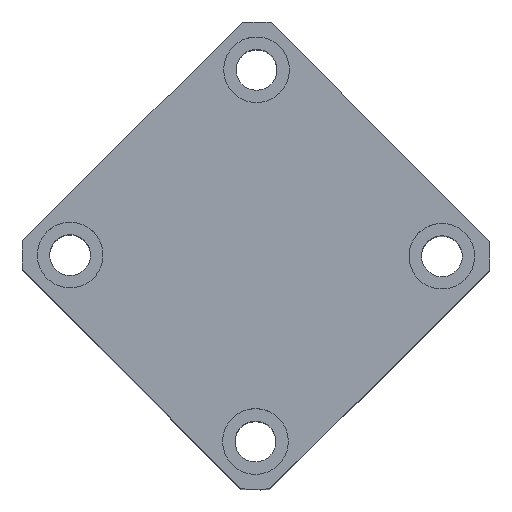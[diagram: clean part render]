
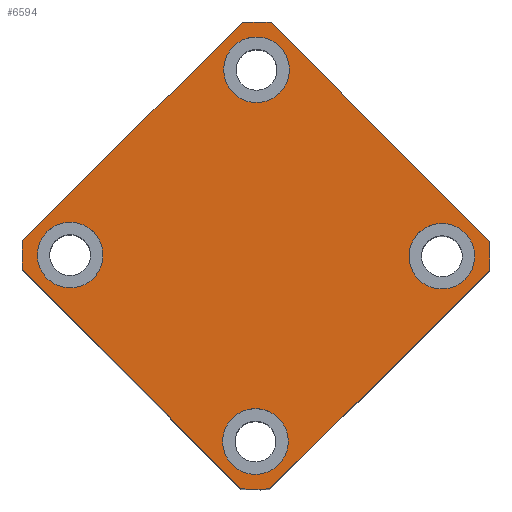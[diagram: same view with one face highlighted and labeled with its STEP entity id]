
A CAD part, top view. The second image highlights one B-rep face of the part: STEP entity #6594.
In plain terms, the highlighted planar face has unit normal (0, 0, 1) as drawn and (1, 0, 0) by its records, which use the part's own axes.
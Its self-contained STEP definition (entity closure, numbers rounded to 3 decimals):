
#87 = VERTEX_POINT ( 'NONE', #2598 ) ;
#207 = DIRECTION ( 'NONE',  ( 0., 0., -1. ) ) ;
#210 = VERTEX_POINT ( 'NONE', #7335 ) ;
#268 = CARTESIAN_POINT ( 'NONE',  ( 60., -24., -21.166 ) ) ;
#300 = EDGE_CURVE ( 'NONE', #5265, #6244, #10051, .T. ) ;
#410 = VECTOR ( 'NONE', #9464, 1000. ) ;
#443 = VERTEX_POINT ( 'NONE', #8346 ) ;
#479 = ORIENTED_EDGE ( 'NONE', *, *, #6866, .T. ) ;
#518 = CIRCLE ( 'NONE', #3486, 32. ) ;
#521 = DIRECTION ( 'NONE',  ( 0., 0., -1. ) ) ;
#602 = DIRECTION ( 'NONE',  ( 0., 0., -1. ) ) ;
#623 = CARTESIAN_POINT ( 'NONE',  ( 60., -18., 22.5 ) ) ;
#691 = CARTESIAN_POINT ( 'NONE',  ( 60., -18., -18. ) ) ;
#707 = FACE_BOUND ( 'NONE', #908, .T. ) ;
#869 = CARTESIAN_POINT ( 'NONE',  ( 60., 0., 0. ) ) ;
#908 = EDGE_LOOP ( 'NONE', ( #3858, #3542 ) ) ;
#1067 = CARTESIAN_POINT ( 'NONE',  ( 60., 24., 24. ) ) ;
#1085 = CIRCLE ( 'NONE', #4946, 32. ) ;
#1253 = DIRECTION ( 'NONE',  ( 0., -1., 0. ) ) ;
#1274 = AXIS2_PLACEMENT_3D ( 'NONE', #8825, #8028, #2989 ) ;
#1387 = VERTEX_POINT ( 'NONE', #268 ) ;
#1528 = DIRECTION ( 'NONE',  ( 0., 0., -1. ) ) ;
#1546 = AXIS2_PLACEMENT_3D ( 'NONE', #4585, #5217, #5518 ) ;
#1578 = VERTEX_POINT ( 'NONE', #2463 ) ;
#1590 = CARTESIAN_POINT ( 'NONE',  ( 60., -18., 18. ) ) ;
#1694 = DIRECTION ( 'NONE',  ( 0., 0., -1. ) ) ;
#2165 = PLANE ( 'NONE',  #1274 ) ;
#2183 = ORIENTED_EDGE ( 'NONE', *, *, #7847, .T. ) ;
#2250 = CARTESIAN_POINT ( 'NONE',  ( 60., -18., 18. ) ) ;
#2306 = EDGE_CURVE ( 'NONE', #6967, #443, #6830, .T. ) ;
#2352 = VECTOR ( 'NONE', #10081, 1000. ) ;
#2432 = DIRECTION ( 'NONE',  ( 0., 0., -1. ) ) ;
#2463 = CARTESIAN_POINT ( 'NONE',  ( 60., -24., 21.166 ) ) ;
#2529 = EDGE_CURVE ( 'NONE', #9693, #8681, #5763, .T. ) ;
#2598 = CARTESIAN_POINT ( 'NONE',  ( 60., 21.166, -24. ) ) ;
#2697 = VERTEX_POINT ( 'NONE', #623 ) ;
#2767 = CARTESIAN_POINT ( 'NONE',  ( 60., 21.166, 24. ) ) ;
#2810 = CIRCLE ( 'NONE', #7172, 4.5 ) ;
#2989 = DIRECTION ( 'NONE',  ( 0., 0., -1. ) ) ;
#3060 = CARTESIAN_POINT ( 'NONE',  ( 60., 24., 24. ) ) ;
#3083 = DIRECTION ( 'NONE',  ( 0., 0., -1. ) ) ;
#3177 = FACE_BOUND ( 'NONE', #5998, .T. ) ;
#3267 = CARTESIAN_POINT ( 'NONE',  ( 60., 18., -22.5 ) ) ;
#3356 = DIRECTION ( 'NONE',  ( 1., 0., 0. ) ) ;
#3486 = AXIS2_PLACEMENT_3D ( 'NONE', #8760, #3736, #9598 ) ;
#3536 = EDGE_CURVE ( 'NONE', #9382, #2697, #6707, .T. ) ;
#3542 = ORIENTED_EDGE ( 'NONE', *, *, #300, .F. ) ;
#3551 = AXIS2_PLACEMENT_3D ( 'NONE', #10225, #5207, #207 ) ;
#3572 = EDGE_CURVE ( 'NONE', #6368, #3610, #6171, .T. ) ;
#3610 = VERTEX_POINT ( 'NONE', #3267 ) ;
#3701 = ORIENTED_EDGE ( 'NONE', *, *, #7421, .F. ) ;
#3736 = DIRECTION ( 'NONE',  ( 1., 0., 0. ) ) ;
#3831 = CIRCLE ( 'NONE', #10754, 4.5 ) ;
#3858 = ORIENTED_EDGE ( 'NONE', *, *, #5366, .F. ) ;
#3886 = EDGE_CURVE ( 'NONE', #3610, #6368, #6565, .T. ) ;
#3910 = ORIENTED_EDGE ( 'NONE', *, *, #9249, .T. ) ;
#4338 = DIRECTION ( 'NONE',  ( 1., 0., 0. ) ) ;
#4402 = CARTESIAN_POINT ( 'NONE',  ( 60., 18., -18. ) ) ;
#4572 = LINE ( 'NONE', #10294, #410 ) ;
#4585 = CARTESIAN_POINT ( 'NONE',  ( 60., 18., 18. ) ) ;
#4607 = AXIS2_PLACEMENT_3D ( 'NONE', #2250, #8104, #3083 ) ;
#4946 = AXIS2_PLACEMENT_3D ( 'NONE', #9366, #4338, #10194 ) ;
#5023 = EDGE_LOOP ( 'NONE', ( #10505, #3701 ) ) ;
#5207 = DIRECTION ( 'NONE',  ( 1., 0., 0. ) ) ;
#5217 = DIRECTION ( 'NONE',  ( 1., 0., 0. ) ) ;
#5255 = DIRECTION ( 'NONE',  ( 0., 0., -1. ) ) ;
#5265 = VERTEX_POINT ( 'NONE', #6202 ) ;
#5366 = EDGE_CURVE ( 'NONE', #6244, #5265, #2810, .T. ) ;
#5518 = DIRECTION ( 'NONE',  ( 0., 0., -1. ) ) ;
#5534 = DIRECTION ( 'NONE',  ( 1., 0., 0. ) ) ;
#5611 = DIRECTION ( 'NONE',  ( 1., 0., 0. ) ) ;
#5763 = LINE ( 'NONE', #1067, #10705 ) ;
#5769 = EDGE_CURVE ( 'NONE', #1578, #1387, #10524, .T. ) ;
#5807 = ORIENTED_EDGE ( 'NONE', *, *, #3886, .F. ) ;
#5833 = EDGE_LOOP ( 'NONE', ( #2183, #479, #8758, #7965, #6728, #3910, #6239, #10251 ) ) ;
#5998 = EDGE_LOOP ( 'NONE', ( #5807, #8920 ) ) ;
#6116 = AXIS2_PLACEMENT_3D ( 'NONE', #4402, #10264, #5255 ) ;
#6150 = CARTESIAN_POINT ( 'NONE',  ( 60., -21.166, 24. ) ) ;
#6171 = CIRCLE ( 'NONE', #6327, 4.5 ) ;
#6202 = CARTESIAN_POINT ( 'NONE',  ( 60., 18., 22.5 ) ) ;
#6239 = ORIENTED_EDGE ( 'NONE', *, *, #5769, .T. ) ;
#6244 = VERTEX_POINT ( 'NONE', #7426 ) ;
#6327 = AXIS2_PLACEMENT_3D ( 'NONE', #10603, #5611, #602 ) ;
#6356 = CIRCLE ( 'NONE', #7453, 32. ) ;
#6368 = VERTEX_POINT ( 'NONE', #7715 ) ;
#6430 = ORIENTED_EDGE ( 'NONE', *, *, #7757, .F. ) ;
#6559 = DIRECTION ( 'NONE',  ( 1., 0., 0. ) ) ;
#6565 = CIRCLE ( 'NONE', #6116, 4.5 ) ;
#6594 = ADVANCED_FACE ( 'NONE', ( #9862, #7403, #3177, #707, #9353 ), #2165, .T. ) ;
#6707 = CIRCLE ( 'NONE', #4607, 4.5 ) ;
#6728 = ORIENTED_EDGE ( 'NONE', *, *, #2529, .T. ) ;
#6736 = DIRECTION ( 'NONE',  ( 1., 0., 0. ) ) ;
#6830 = LINE ( 'NONE', #3060, #2352 ) ;
#6866 = EDGE_CURVE ( 'NONE', #87, #6967, #6356, .T. ) ;
#6951 = CARTESIAN_POINT ( 'NONE',  ( 60., -18., -22.5 ) ) ;
#6967 = VERTEX_POINT ( 'NONE', #7662 ) ;
#7073 = AXIS2_PLACEMENT_3D ( 'NONE', #869, #6736, #1694 ) ;
#7172 = AXIS2_PLACEMENT_3D ( 'NONE', #10531, #5534, #521 ) ;
#7335 = CARTESIAN_POINT ( 'NONE',  ( 60., -18., -13.5 ) ) ;
#7403 = FACE_BOUND ( 'NONE', #5023, .T. ) ;
#7421 = EDGE_CURVE ( 'NONE', #2697, #9382, #7652, .T. ) ;
#7426 = CARTESIAN_POINT ( 'NONE',  ( 60., 18., 13.5 ) ) ;
#7453 = AXIS2_PLACEMENT_3D ( 'NONE', #8383, #3356, #9218 ) ;
#7460 = DIRECTION ( 'NONE',  ( 1., 0., 0. ) ) ;
#7652 = CIRCLE ( 'NONE', #9919, 4.5 ) ;
#7662 = CARTESIAN_POINT ( 'NONE',  ( 60., 24., -21.166 ) ) ;
#7687 = CARTESIAN_POINT ( 'NONE',  ( 60., -21.166, -24. ) ) ;
#7715 = CARTESIAN_POINT ( 'NONE',  ( 60., 18., -13.5 ) ) ;
#7757 = EDGE_CURVE ( 'NONE', #10533, #210, #8559, .T. ) ;
#7847 = EDGE_CURVE ( 'NONE', #8951, #87, #4572, .T. ) ;
#7965 = ORIENTED_EDGE ( 'NONE', *, *, #8879, .T. ) ;
#8028 = DIRECTION ( 'NONE',  ( 1., 0., 0. ) ) ;
#8104 = DIRECTION ( 'NONE',  ( 1., 0., 0. ) ) ;
#8316 = VECTOR ( 'NONE', #9819, 1000. ) ;
#8346 = CARTESIAN_POINT ( 'NONE',  ( 60., 24., 21.166 ) ) ;
#8383 = CARTESIAN_POINT ( 'NONE',  ( 60., 0., 0. ) ) ;
#8559 = CIRCLE ( 'NONE', #3551, 4.5 ) ;
#8681 = VERTEX_POINT ( 'NONE', #6150 ) ;
#8722 = ORIENTED_EDGE ( 'NONE', *, *, #9428, .F. ) ;
#8758 = ORIENTED_EDGE ( 'NONE', *, *, #2306, .T. ) ;
#8760 = CARTESIAN_POINT ( 'NONE',  ( 60., 0., 0. ) ) ;
#8768 = CIRCLE ( 'NONE', #7073, 32. ) ;
#8825 = CARTESIAN_POINT ( 'NONE',  ( 60., 0., 0. ) ) ;
#8879 = EDGE_CURVE ( 'NONE', #443, #9693, #8768, .T. ) ;
#8920 = ORIENTED_EDGE ( 'NONE', *, *, #3572, .F. ) ;
#8951 = VERTEX_POINT ( 'NONE', #7687 ) ;
#8985 = CARTESIAN_POINT ( 'NONE',  ( 60., -24., 24. ) ) ;
#9218 = DIRECTION ( 'NONE',  ( 0., 0., -1. ) ) ;
#9249 = EDGE_CURVE ( 'NONE', #8681, #1578, #518, .T. ) ;
#9353 = FACE_OUTER_BOUND ( 'NONE', #5833, .T. ) ;
#9366 = CARTESIAN_POINT ( 'NONE',  ( 60., 0., 0. ) ) ;
#9382 = VERTEX_POINT ( 'NONE', #9728 ) ;
#9428 = EDGE_CURVE ( 'NONE', #210, #10533, #3831, .T. ) ;
#9464 = DIRECTION ( 'NONE',  ( 0., 1., 0. ) ) ;
#9597 = EDGE_CURVE ( 'NONE', #1387, #8951, #1085, .T. ) ;
#9598 = DIRECTION ( 'NONE',  ( 0., 0., -1. ) ) ;
#9693 = VERTEX_POINT ( 'NONE', #2767 ) ;
#9728 = CARTESIAN_POINT ( 'NONE',  ( 60., -18., 13.5 ) ) ;
#9819 = DIRECTION ( 'NONE',  ( 0., 0., -1. ) ) ;
#9862 = FACE_BOUND ( 'NONE', #10321, .T. ) ;
#9919 = AXIS2_PLACEMENT_3D ( 'NONE', #1590, #7460, #2432 ) ;
#10051 = CIRCLE ( 'NONE', #1546, 4.5 ) ;
#10081 = DIRECTION ( 'NONE',  ( 0., 0., 1. ) ) ;
#10194 = DIRECTION ( 'NONE',  ( 0., 0., -1. ) ) ;
#10225 = CARTESIAN_POINT ( 'NONE',  ( 60., -18., -18. ) ) ;
#10251 = ORIENTED_EDGE ( 'NONE', *, *, #9597, .T. ) ;
#10264 = DIRECTION ( 'NONE',  ( 1., 0., 0. ) ) ;
#10294 = CARTESIAN_POINT ( 'NONE',  ( 60., 24., -24. ) ) ;
#10321 = EDGE_LOOP ( 'NONE', ( #6430, #8722 ) ) ;
#10505 = ORIENTED_EDGE ( 'NONE', *, *, #3536, .F. ) ;
#10524 = LINE ( 'NONE', #8985, #8316 ) ;
#10531 = CARTESIAN_POINT ( 'NONE',  ( 60., 18., 18. ) ) ;
#10533 = VERTEX_POINT ( 'NONE', #6951 ) ;
#10603 = CARTESIAN_POINT ( 'NONE',  ( 60., 18., -18. ) ) ;
#10705 = VECTOR ( 'NONE', #1253, 1000. ) ;
#10754 = AXIS2_PLACEMENT_3D ( 'NONE', #691, #6559, #1528 ) ;
